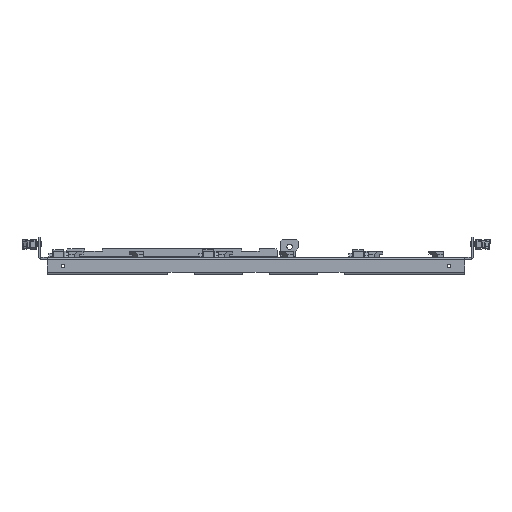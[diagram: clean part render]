
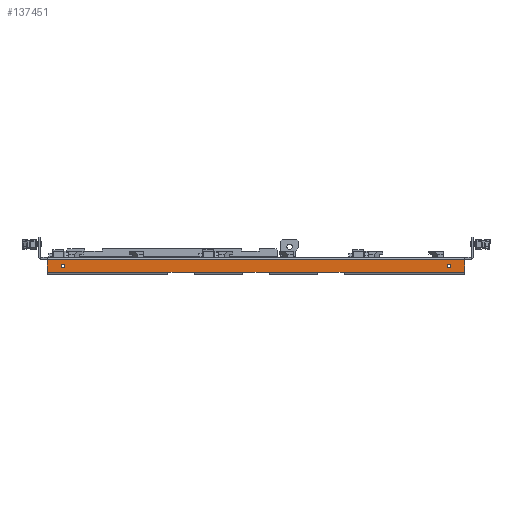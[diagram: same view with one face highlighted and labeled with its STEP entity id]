
A CAD part, front view. The second image highlights one B-rep face of the part: STEP entity #137451.
In plain terms, the highlighted planar face has unit normal (0, -1, 0).
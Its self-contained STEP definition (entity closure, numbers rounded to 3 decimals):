
#85476=CARTESIAN_POINT(' ',(239.5,-211.7,-2.6));
#85477=VERTEX_POINT(' ',#85476);
#85491=CARTESIAN_POINT(' ',(239.5,-211.7,-17.4));
#85496=DIRECTION(' ',(0.,0.,1.));
#85501=VECTOR(' ',#85496,1.);
#85506=LINE('',#85491,#85501);
#85511=CARTESIAN_POINT(' ',(239.5,-211.7,-17.4));
#85512=VERTEX_POINT(' ',#85511);
#85516=EDGE_CURVE(' ',#85512,#85477,#85506,.T.);
#86156=CARTESIAN_POINT(' ',(-239.5,-211.7,-17.4));
#86157=VERTEX_POINT(' ',#86156);
#86171=CARTESIAN_POINT(' ',(-239.5,-211.7,-2.6));
#86176=DIRECTION(' ',(0.,0.,-1.));
#86181=VECTOR(' ',#86176,1.);
#86186=LINE('',#86171,#86181);
#86191=CARTESIAN_POINT(' ',(-239.5,-211.7,-2.6));
#86192=VERTEX_POINT(' ',#86191);
#86196=EDGE_CURVE(' ',#86192,#86157,#86186,.T.);
#135851=CARTESIAN_POINT(' ',(-239.5,-211.7,-2.6));
#135856=DIRECTION(' ',(1.,0.,0.));
#135861=VECTOR(' ',#135856,1.);
#135866=LINE('',#135851,#135861);
#135871=EDGE_CURVE(' ',#86192,#85477,#135866,.T.);
#136981=DIRECTION(' ',(0.,-1.,0.));
#136986=CARTESIAN_POINT(' ',(-239.5,-211.7,-17.4));
#136991=DIRECTION(' ',(1.,0.,0.));
#136996=AXIS2_PLACEMENT_3D(' ',#136986,#136981,#136991);
#137001=PLANE('NONE',#136996);
#137006=ORIENTED_EDGE(' ',*,*,#135871,.F.);
#137011=ORIENTED_EDGE(' ',*,*,#86196,.T.);
#137016=CARTESIAN_POINT(' ',(-239.5,-211.7,-17.4));
#137021=DIRECTION(' ',(1.,0.,0.));
#137026=VECTOR(' ',#137021,1.);
#137031=LINE('',#137016,#137026);
#137036=CARTESIAN_POINT(' ',(-101.,-211.7,-17.4));
#137037=VERTEX_POINT(' ',#137036);
#137041=EDGE_CURVE(' ',#86157,#137037,#137031,.T.);
#137046=ORIENTED_EDGE(' ',*,*,#137041,.T.);
#137051=CARTESIAN_POINT(' ',(-71.,-211.7,-17.4));
#137056=DIRECTION(' ',(-1.,0.,0.));
#137061=VECTOR(' ',#137056,1.);
#137066=LINE('',#137051,#137061);
#137071=CARTESIAN_POINT(' ',(-71.,-211.7,-17.4));
#137072=VERTEX_POINT(' ',#137071);
#137076=EDGE_CURVE(' ',#137072,#137037,#137066,.T.);
#137081=ORIENTED_EDGE(' ',*,*,#137076,.F.);
#137086=CARTESIAN_POINT(' ',(-71.,-211.7,-17.4));
#137091=DIRECTION(' ',(1.,0.,0.));
#137096=VECTOR(' ',#137091,1.);
#137101=LINE('',#137086,#137096);
#137106=CARTESIAN_POINT(' ',(-15.,-211.7,-17.4));
#137107=VERTEX_POINT(' ',#137106);
#137111=EDGE_CURVE(' ',#137072,#137107,#137101,.T.);
#137116=ORIENTED_EDGE(' ',*,*,#137111,.T.);
#137121=CARTESIAN_POINT(' ',(15.,-211.7,-17.4));
#137126=DIRECTION(' ',(-1.,0.,0.));
#137131=VECTOR(' ',#137126,1.);
#137136=LINE('',#137121,#137131);
#137141=CARTESIAN_POINT(' ',(15.,-211.7,-17.4));
#137142=VERTEX_POINT(' ',#137141);
#137146=EDGE_CURVE(' ',#137142,#137107,#137136,.T.);
#137151=ORIENTED_EDGE(' ',*,*,#137146,.F.);
#137156=CARTESIAN_POINT(' ',(15.,-211.7,-17.4));
#137161=DIRECTION(' ',(1.,0.,0.));
#137166=VECTOR(' ',#137161,1.);
#137171=LINE('',#137156,#137166);
#137176=CARTESIAN_POINT(' ',(71.,-211.7,-17.4));
#137177=VERTEX_POINT(' ',#137176);
#137181=EDGE_CURVE(' ',#137142,#137177,#137171,.T.);
#137186=ORIENTED_EDGE(' ',*,*,#137181,.T.);
#137191=CARTESIAN_POINT(' ',(101.,-211.7,-17.4));
#137196=DIRECTION(' ',(-1.,0.,0.));
#137201=VECTOR(' ',#137196,1.);
#137206=LINE('',#137191,#137201);
#137211=CARTESIAN_POINT(' ',(101.,-211.7,-17.4));
#137212=VERTEX_POINT(' ',#137211);
#137216=EDGE_CURVE(' ',#137212,#137177,#137206,.T.);
#137221=ORIENTED_EDGE(' ',*,*,#137216,.F.);
#137226=CARTESIAN_POINT(' ',(101.,-211.7,-17.4));
#137231=DIRECTION(' ',(1.,0.,0.));
#137236=VECTOR(' ',#137231,1.);
#137241=LINE('',#137226,#137236);
#137246=EDGE_CURVE(' ',#137212,#85512,#137241,.T.);
#137251=ORIENTED_EDGE(' ',*,*,#137246,.T.);
#137256=ORIENTED_EDGE(' ',*,*,#85516,.T.);
#137261=EDGE_LOOP(' ',(#137006,#137011,#137046,#137081,#137116,#137151,#137186,#137221,#137251,#137256));
#137266=FACE_OUTER_BOUND(' ',#137261,.T.);
#137271=CARTESIAN_POINT(' ',(-221.5,-211.7,-10.));
#137276=DIRECTION(' ',(-0.,-1.,0.));
#137281=DIRECTION(' ',(0.,0.,-1.));
#137286=AXIS2_PLACEMENT_3D(' ',#137271,#137276,#137281);
#137291=CIRCLE('',#137286,2.2);
#137296=CARTESIAN_POINT(' ',(-221.5,-211.7,-12.2));
#137297=VERTEX_POINT(' ',#137296);
#137301=CARTESIAN_POINT(' ',(-221.5,-211.7,-7.8));
#137302=VERTEX_POINT(' ',#137301);
#137306=EDGE_CURVE(' ',#137297,#137302,#137291,.T.);
#137311=ORIENTED_EDGE(' ',*,*,#137306,.F.);
#137316=CARTESIAN_POINT(' ',(-221.5,-211.7,-10.));
#137321=DIRECTION(' ',(0.,-1.,0.));
#137326=DIRECTION(' ',(0.,0.,1.));
#137331=AXIS2_PLACEMENT_3D(' ',#137316,#137321,#137326);
#137336=CIRCLE('',#137331,2.2);
#137341=EDGE_CURVE(' ',#137302,#137297,#137336,.T.);
#137346=ORIENTED_EDGE(' ',*,*,#137341,.F.);
#137351=EDGE_LOOP(' ',(#137311,#137346));
#137356=FACE_BOUND(' ',#137351,.T.);
#137361=CARTESIAN_POINT(' ',(221.5,-211.7,-10.));
#137366=DIRECTION(' ',(-0.,-1.,0.));
#137371=DIRECTION(' ',(0.,0.,-1.));
#137376=AXIS2_PLACEMENT_3D(' ',#137361,#137366,#137371);
#137381=CIRCLE('',#137376,2.2);
#137386=CARTESIAN_POINT(' ',(221.5,-211.7,-12.2));
#137387=VERTEX_POINT(' ',#137386);
#137391=CARTESIAN_POINT(' ',(221.5,-211.7,-7.8));
#137392=VERTEX_POINT(' ',#137391);
#137396=EDGE_CURVE(' ',#137387,#137392,#137381,.T.);
#137401=ORIENTED_EDGE(' ',*,*,#137396,.F.);
#137406=CARTESIAN_POINT(' ',(221.5,-211.7,-10.));
#137411=DIRECTION(' ',(0.,-1.,0.));
#137416=DIRECTION(' ',(0.,0.,1.));
#137421=AXIS2_PLACEMENT_3D(' ',#137406,#137411,#137416);
#137426=CIRCLE('',#137421,2.2);
#137431=EDGE_CURVE(' ',#137392,#137387,#137426,.T.);
#137436=ORIENTED_EDGE(' ',*,*,#137431,.F.);
#137441=EDGE_LOOP(' ',(#137401,#137436));
#137446=FACE_BOUND(' ',#137441,.T.);
#137451=ADVANCED_FACE('NONE',(#137266,#137356,#137446),#137001,.T.);
